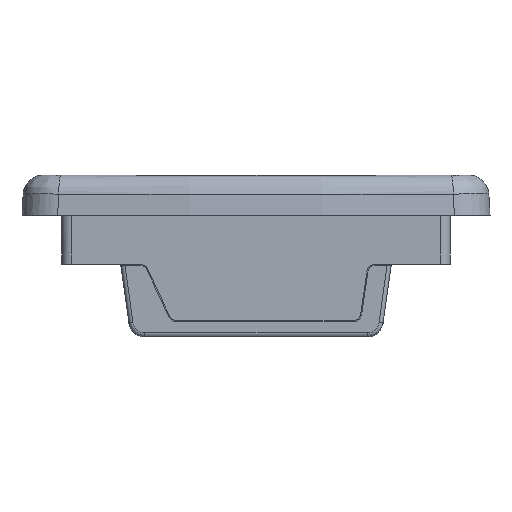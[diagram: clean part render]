
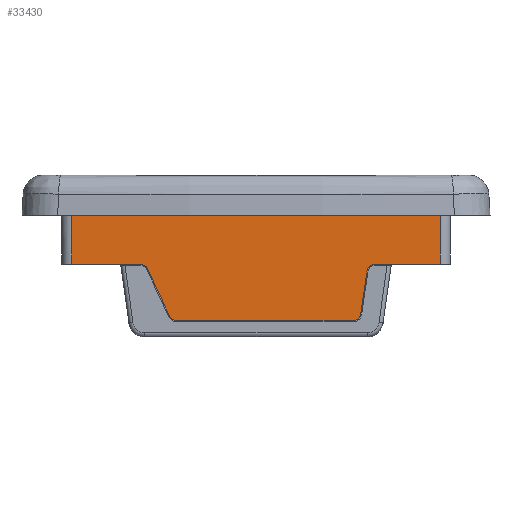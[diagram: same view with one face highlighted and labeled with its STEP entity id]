
A CAD part, left-side view. The second image highlights one B-rep face of the part: STEP entity #33430.
In plain terms, the highlighted planar face has unit normal (-1, 0, -0.009).
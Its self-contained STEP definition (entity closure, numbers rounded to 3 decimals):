
#117 = LINE ( 'NONE', #23240, #13872 ) ;
#293 = CARTESIAN_POINT ( 'NONE',  ( -76.245, -45.745, 0. ) ) ;
#414 = EDGE_CURVE ( 'NONE', #1858, #28138, #22584, .T. ) ;
#1858 = VERTEX_POINT ( 'NONE', #2378 ) ;
#2378 = CARTESIAN_POINT ( 'NONE',  ( -76.027, 21.411, -24.974 ) ) ;
#2388 = DIRECTION ( 'NONE',  ( -0.009, -0.009, 1. ) ) ;
#2827 = AXIS2_PLACEMENT_3D ( 'NONE', #23657, #28911, #13150 ) ;
#2986 = EDGE_CURVE ( 'NONE', #24248, #28529, #20514, .T. ) ;
#3882 = LINE ( 'NONE', #9968, #23072 ) ;
#4294 = VECTOR ( 'NONE', #23644, 1000. ) ;
#4461 = DIRECTION ( 'NONE',  ( 0., -1., 0. ) ) ;
#4570 = CARTESIAN_POINT ( 'NONE',  ( -76.14, -45.64, -12.1 ) ) ;
#4940 = DIRECTION ( 'NONE',  ( 0.008, -0.423, -0.906 ) ) ;
#5293 = CARTESIAN_POINT ( 'NONE',  ( -76.14, 28.847, -12.1 ) ) ;
#5354 = PLANE ( 'NONE',  #2827 ) ;
#5793 = CARTESIAN_POINT ( 'NONE',  ( -76.017, -24.055, -26.1 ) ) ;
#6291 = CARTESIAN_POINT ( 'NONE',  ( -76.14, 28.847, -12.1 ) ) ;
#6350 = CARTESIAN_POINT ( 'NONE',  ( -76.032, -25.986, -24.421 ) ) ;
#6610 = VERTEX_POINT ( 'NONE', #10767 ) ;
#7556 = LINE ( 'NONE', #17964, #21516 ) ;
#7726 = ORIENTED_EDGE ( 'NONE', *, *, #10299, .T. ) ;
#8060 = CARTESIAN_POINT ( 'NONE',  ( -76.123, -27.446, -14.037 ) ) ;
#8346 = CARTESIAN_POINT ( 'NONE',  ( -76.023, -25.844, -25.431 ) ) ;
#9228 = EDGE_CURVE ( 'NONE', #28138, #21802, #21487, .T. ) ;
#9968 = CARTESIAN_POINT ( 'NONE',  ( -75.993, 45.493, -28.916 ) ) ;
#10189 = CARTESIAN_POINT ( 'NONE',  ( -76.135, 27.189, -12.584 ) ) ;
#10224 = VECTOR ( 'NONE', #26209, 1000. ) ;
#10299 = EDGE_CURVE ( 'NONE', #26267, #6610, #17241, .T. ) ;
#10767 = CARTESIAN_POINT ( 'NONE',  ( -76.245, 45.745, 0. ) ) ;
#10955 = CARTESIAN_POINT ( 'NONE',  ( -76.133, -27.61, -12.872 ) ) ;
#11024 =( BOUNDED_CURVE ( )  B_SPLINE_CURVE ( 3, ( #13516, #10955, #26749, #29377 ),
 .UNSPECIFIED., .F., .T. ) 
 B_SPLINE_CURVE_WITH_KNOTS ( ( 4, 4 ),
 ( 1.71, 3.142 ),
 .UNSPECIFIED. ) 
 CURVE ( )  GEOMETRIC_REPRESENTATION_ITEM ( )  RATIONAL_B_SPLINE_CURVE ( ( 1., 0.836, 0.836, 1. ) ) 
 REPRESENTATION_ITEM ( '' )  );
#11119 = LINE ( 'NONE', #18298, #4294 ) ;
#11388 = VECTOR ( 'NONE', #4461, 1000. ) ;
#11435 =( BOUNDED_CURVE ( )  B_SPLINE_CURVE ( 3, ( #5293, #31317, #10189, #23594 ),
 .UNSPECIFIED., .F., .T. ) 
 B_SPLINE_CURVE_WITH_KNOTS ( ( 4, 4 ),
 ( 3.142, 4.276 ),
 .UNSPECIFIED. ) 
 CURVE ( )  GEOMETRIC_REPRESENTATION_ITEM ( )  RATIONAL_B_SPLINE_CURVE ( ( 1., 0.896, 0.896, 1. ) ) 
 REPRESENTATION_ITEM ( '' )  );
#12132 = CARTESIAN_POINT ( 'NONE',  ( -76.14, -48., -12.1 ) ) ;
#13056 = VERTEX_POINT ( 'NONE', #17502 ) ;
#13069 = ORIENTED_EDGE ( 'NONE', *, *, #22980, .T. ) ;
#13150 = DIRECTION ( 'NONE',  ( -0.009, 0., 1. ) ) ;
#13503 = VECTOR ( 'NONE', #33650, 1000. ) ;
#13516 = CARTESIAN_POINT ( 'NONE',  ( -76.123, -27.446, -14.037 ) ) ;
#13834 = EDGE_CURVE ( 'NONE', #33198, #32420, #11435, .T. ) ;
#13872 = VECTOR ( 'NONE', #4940, 1000. ) ;
#14418 = VECTOR ( 'NONE', #25138, 1000. ) ;
#14472 = CARTESIAN_POINT ( 'NONE',  ( -76.017, -24.055, -26.1 ) ) ;
#14999 = ORIENTED_EDGE ( 'NONE', *, *, #31031, .T. ) ;
#15263 = DIRECTION ( 'NONE',  ( -0.009, 0.009, 1. ) ) ;
#17129 = ORIENTED_EDGE ( 'NONE', *, *, #2986, .T. ) ;
#17177 = CARTESIAN_POINT ( 'NONE',  ( -76.017, -48., -26.1 ) ) ;
#17241 = LINE ( 'NONE', #17871, #10224 ) ;
#17502 = CARTESIAN_POINT ( 'NONE',  ( -76.14, 45.64, -12.1 ) ) ;
#17871 = CARTESIAN_POINT ( 'NONE',  ( -76.245, 0., 0. ) ) ;
#17886 = CARTESIAN_POINT ( 'NONE',  ( -76.032, -25.986, -24.421 ) ) ;
#17964 = CARTESIAN_POINT ( 'NONE',  ( -76.14, -45.64, -12.1 ) ) ;
#18022 = EDGE_LOOP ( 'NONE', ( #24516, #20346, #17129, #13069, #28243, #14999, #7726, #32770, #28801, #20383, #29393, #33391 ) ) ;
#18205 = EDGE_CURVE ( 'NONE', #32664, #31815, #32302, .T. ) ;
#18298 = CARTESIAN_POINT ( 'NONE',  ( -76.14, -48., -12.1 ) ) ;
#19457 = CARTESIAN_POINT ( 'NONE',  ( -76.027, 21.411, -24.974 ) ) ;
#19503 = CARTESIAN_POINT ( 'NONE',  ( -76.017, 19.643, -26.1 ) ) ;
#19744 = CARTESIAN_POINT ( 'NONE',  ( -76.021, 21.081, -25.681 ) ) ;
#19933 =( BOUNDED_CURVE ( )  B_SPLINE_CURVE ( 3, ( #5793, #24088, #8346, #26713 ),
 .UNSPECIFIED., .F., .F. ) 
 B_SPLINE_CURVE_WITH_KNOTS ( ( 4, 4 ),
 ( 0., 1.431 ),
 .UNSPECIFIED. ) 
 CURVE ( )  GEOMETRIC_REPRESENTATION_ITEM ( )  RATIONAL_B_SPLINE_CURVE ( ( 1., 0.836, 0.836, 1. ) ) 
 REPRESENTATION_ITEM ( '' )  );
#20346 = ORIENTED_EDGE ( 'NONE', *, *, #29959, .T. ) ;
#20383 = ORIENTED_EDGE ( 'NONE', *, *, #13834, .T. ) ;
#20498 = CARTESIAN_POINT ( 'NONE',  ( -76.128, 26.808, -13.399 ) ) ;
#20514 = LINE ( 'NONE', #6350, #13503 ) ;
#21433 = CARTESIAN_POINT ( 'NONE',  ( -76.017, 19.643, -26.1 ) ) ;
#21487 = LINE ( 'NONE', #17177, #14418 ) ;
#21516 = VECTOR ( 'NONE', #2388, 1000. ) ;
#21802 = VERTEX_POINT ( 'NONE', #14472 ) ;
#22584 =( BOUNDED_CURVE ( )  B_SPLINE_CURVE ( 3, ( #19457, #19744, #22626, #19503 ),
 .UNSPECIFIED., .F., .T. ) 
 B_SPLINE_CURVE_WITH_KNOTS ( ( 4, 4 ),
 ( 5.149, 6.283 ),
 .UNSPECIFIED. ) 
 CURVE ( )  GEOMETRIC_REPRESENTATION_ITEM ( )  RATIONAL_B_SPLINE_CURVE ( ( 1., 0.896, 0.896, 1. ) ) 
 REPRESENTATION_ITEM ( '' )  );
#22626 = CARTESIAN_POINT ( 'NONE',  ( -76.017, 20.423, -26.1 ) ) ;
#22980 = EDGE_CURVE ( 'NONE', #28529, #32664, #11024, .T. ) ;
#23072 = VECTOR ( 'NONE', #15263, 1000. ) ;
#23240 = CARTESIAN_POINT ( 'NONE',  ( -76.128, 26.808, -13.399 ) ) ;
#23339 = EDGE_CURVE ( 'NONE', #13056, #33198, #11119, .T. ) ;
#23594 = CARTESIAN_POINT ( 'NONE',  ( -76.128, 26.808, -13.399 ) ) ;
#23644 = DIRECTION ( 'NONE',  ( 0., -1., 0. ) ) ;
#23657 = CARTESIAN_POINT ( 'NONE',  ( -76., -48., -28.1 ) ) ;
#23766 = EDGE_CURVE ( 'NONE', #13056, #6610, #3882, .T. ) ;
#24088 = CARTESIAN_POINT ( 'NONE',  ( -76.017, -25.075, -26.1 ) ) ;
#24248 = VERTEX_POINT ( 'NONE', #17886 ) ;
#24516 = ORIENTED_EDGE ( 'NONE', *, *, #9228, .T. ) ;
#25138 = DIRECTION ( 'NONE',  ( 0., -1., 0. ) ) ;
#26209 = DIRECTION ( 'NONE',  ( 0., 1., 0. ) ) ;
#26267 = VERTEX_POINT ( 'NONE', #293 ) ;
#26713 = CARTESIAN_POINT ( 'NONE',  ( -76.032, -25.986, -24.421 ) ) ;
#26749 = CARTESIAN_POINT ( 'NONE',  ( -76.14, -28.497, -12.1 ) ) ;
#27241 = EDGE_CURVE ( 'NONE', #32420, #1858, #117, .T. ) ;
#28138 = VERTEX_POINT ( 'NONE', #21433 ) ;
#28243 = ORIENTED_EDGE ( 'NONE', *, *, #18205, .T. ) ;
#28529 = VERTEX_POINT ( 'NONE', #8060 ) ;
#28801 = ORIENTED_EDGE ( 'NONE', *, *, #23339, .T. ) ;
#28911 = DIRECTION ( 'NONE',  ( -1., 0., -0.009 ) ) ;
#29377 = CARTESIAN_POINT ( 'NONE',  ( -76.14, -29.674, -12.1 ) ) ;
#29393 = ORIENTED_EDGE ( 'NONE', *, *, #27241, .T. ) ;
#29645 = FACE_OUTER_BOUND ( 'NONE', #18022, .T. ) ;
#29959 = EDGE_CURVE ( 'NONE', #21802, #24248, #19933, .T. ) ;
#29994 = CARTESIAN_POINT ( 'NONE',  ( -76.14, -29.674, -12.1 ) ) ;
#31031 = EDGE_CURVE ( 'NONE', #31815, #26267, #7556, .T. ) ;
#31317 = CARTESIAN_POINT ( 'NONE',  ( -76.14, 27.948, -12.1 ) ) ;
#31815 = VERTEX_POINT ( 'NONE', #4570 ) ;
#32302 = LINE ( 'NONE', #12132, #11388 ) ;
#32420 = VERTEX_POINT ( 'NONE', #20498 ) ;
#32664 = VERTEX_POINT ( 'NONE', #29994 ) ;
#32770 = ORIENTED_EDGE ( 'NONE', *, *, #23766, .F. ) ;
#33198 = VERTEX_POINT ( 'NONE', #6291 ) ;
#33391 = ORIENTED_EDGE ( 'NONE', *, *, #414, .T. ) ;
#33430 = ADVANCED_FACE ( 'NONE', ( #29645 ), #5354, .T. ) ;
#33650 = DIRECTION ( 'NONE',  ( -0.009, -0.139, 0.99 ) ) ;
